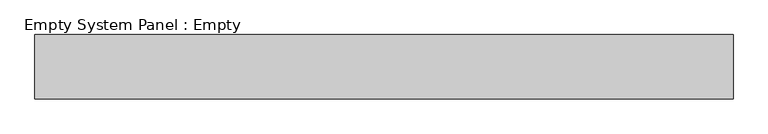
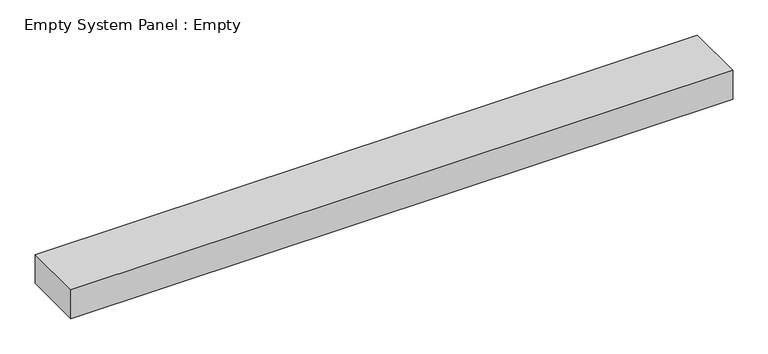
"""IFC4 building model written with IfcOpenShell, lengths in millimetres: plate geometry, Empty System Panel : Empty."""

from ifc_helpers import new_model, si_unit, origin, origin_with_axes, place, context, project, spatial, polyline, outline, extrude, source, transform, mapped, element, save


def empty_system_panel_empty_9e7b3ea5(model_context):
    return source(origin(), model_context, "Body", "SweptSolid", [
        extrude(outline(polyline([(541.0714286, -50.0), (-541.0714286, -50.0), (-541.0714286, 50.0), (541.0714286, 50.0), (541.0714286, -50.0)])), origin_with_axes(), (0.0, 0.0, 1.0), 50.0),
    ])


if __name__ == "__main__":
    model = new_model("IFC4")
    model_context = context("Model", 3, world=origin())
    ifc_project = project(units=[si_unit("LENGTHUNIT", "METRE", prefix="MILLI")], contexts=[model_context])
    site = spatial("IfcSite", under=ifc_project)
    building = spatial("IfcBuilding", under=site)
    placement = place(None, origin())
    empty_system_panel_empty_shape = empty_system_panel_empty_9e7b3ea5(model_context)
    element("IfcPlate", 1, ObjectType="Empty System Panel : Empty", at=placement, inside=building, context=model_context, shape_type="MappedRepresentation", body=[
        mapped(empty_system_panel_empty_shape, transform((0.0, 0.0, 0.0), x_axis=(1.0, 0.0, 0.0), y_axis=(0.0, 1.0, 0.0), z_axis=(0.0, 0.0, 1.0))),
    ])
    save(model, "model.ifc")
